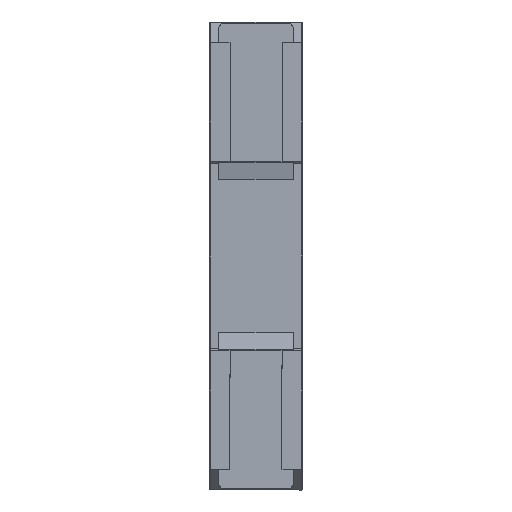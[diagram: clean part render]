
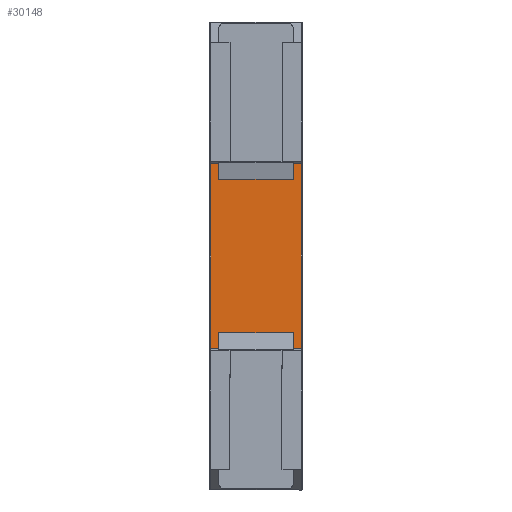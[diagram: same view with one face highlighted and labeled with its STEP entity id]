
A CAD part, left-side view. The second image highlights one B-rep face of the part: STEP entity #30148.
In plain terms, the highlighted planar face has unit normal (-1, 0, 0).
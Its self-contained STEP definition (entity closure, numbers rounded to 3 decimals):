
#134 = VERTEX_POINT ( 'NONE', #2056 ) ;
#229 = CARTESIAN_POINT ( 'NONE',  ( 4., 0., 58.75 ) ) ;
#536 = EDGE_LOOP ( 'NONE', ( #34832, #24188, #33313, #42470, #9837, #13044, #20094, #19908, #35086, #44092, #45949, #38702 ) ) ;
#1455 = CARTESIAN_POINT ( 'NONE',  ( 4., 17.6, 58.75 ) ) ;
#1949 = CARTESIAN_POINT ( 'NONE',  ( 4., 15.85, 85.75 ) ) ;
#2056 = CARTESIAN_POINT ( 'NONE',  ( 4., 17.4, 23.25 ) ) ;
#2445 = DIRECTION ( 'NONE',  ( 0., 0., -1. ) ) ;
#3113 = CARTESIAN_POINT ( 'NONE',  ( 4., 17.4, 41. ) ) ;
#3492 = VERTEX_POINT ( 'NONE', #229 ) ;
#3727 = VERTEX_POINT ( 'NONE', #19730 ) ;
#3997 = EDGE_CURVE ( 'NONE', #3492, #33492, #15199, .T. ) ;
#4330 = LINE ( 'NONE', #36053, #16163 ) ;
#4342 = EDGE_CURVE ( 'NONE', #8724, #29728, #44262, .T. ) ;
#5014 = LINE ( 'NONE', #44492, #41630 ) ;
#6082 = EDGE_CURVE ( 'NONE', #13612, #33492, #18852, .T. ) ;
#6759 = LINE ( 'NONE', #34992, #7663 ) ;
#6876 = VECTOR ( 'NONE', #46277, 1000. ) ;
#7169 = CARTESIAN_POINT ( 'NONE',  ( 4., 1.55, 23.25 ) ) ;
#7663 = VECTOR ( 'NONE', #10762, 1000. ) ;
#8637 = PLANE ( 'NONE',  #32968 ) ;
#8724 = VERTEX_POINT ( 'NONE', #10588 ) ;
#8797 = DIRECTION ( 'NONE',  ( 0., 0., -1. ) ) ;
#9439 = VECTOR ( 'NONE', #21652, 1000. ) ;
#9495 = VECTOR ( 'NONE', #33426, 1000. ) ;
#9837 = ORIENTED_EDGE ( 'NONE', *, *, #18395, .T. ) ;
#10588 = CARTESIAN_POINT ( 'NONE',  ( 4., 17.4, 58.75 ) ) ;
#10762 = DIRECTION ( 'NONE',  ( 0., -1., 0. ) ) ;
#11690 = DIRECTION ( 'NONE',  ( 0., 0., -1. ) ) ;
#12712 = CARTESIAN_POINT ( 'NONE',  ( 4., 15.85, 58.75 ) ) ;
#13025 = LINE ( 'NONE', #44349, #18510 ) ;
#13044 = ORIENTED_EDGE ( 'NONE', *, *, #39787, .F. ) ;
#13612 = VERTEX_POINT ( 'NONE', #7169 ) ;
#14273 = LINE ( 'NONE', #20644, #6876 ) ;
#14761 = EDGE_CURVE ( 'NONE', #29728, #20878, #44495, .T. ) ;
#15199 = LINE ( 'NONE', #43897, #26443 ) ;
#15779 = CARTESIAN_POINT ( 'NONE',  ( 4., 1.55, 23.25 ) ) ;
#16163 = VECTOR ( 'NONE', #28991, 1000. ) ;
#17071 = DIRECTION ( 'NONE',  ( 1., 0., 0. ) ) ;
#18384 = LINE ( 'NONE', #39541, #9439 ) ;
#18395 = EDGE_CURVE ( 'NONE', #3727, #43370, #37951, .T. ) ;
#18510 = VECTOR ( 'NONE', #34884, 1000. ) ;
#18852 = LINE ( 'NONE', #15779, #26276 ) ;
#19730 = CARTESIAN_POINT ( 'NONE',  ( 4., 1.55, 58.75 ) ) ;
#19836 = EDGE_CURVE ( 'NONE', #20832, #30046, #14273, .T. ) ;
#19908 = ORIENTED_EDGE ( 'NONE', *, *, #4342, .F. ) ;
#20094 = ORIENTED_EDGE ( 'NONE', *, *, #14761, .F. ) ;
#20644 = CARTESIAN_POINT ( 'NONE',  ( 4., 17.6, 23.5 ) ) ;
#20832 = VERTEX_POINT ( 'NONE', #35948 ) ;
#20878 = VERTEX_POINT ( 'NONE', #32650 ) ;
#21257 = CARTESIAN_POINT ( 'NONE',  ( 4., 17.6, 23.25 ) ) ;
#21652 = DIRECTION ( 'NONE',  ( 0., 0., -1. ) ) ;
#23997 = EDGE_CURVE ( 'NONE', #30046, #40800, #18384, .T. ) ;
#24188 = ORIENTED_EDGE ( 'NONE', *, *, #6082, .T. ) ;
#24767 = CARTESIAN_POINT ( 'NONE',  ( 4., 0., 23.25 ) ) ;
#24852 = EDGE_CURVE ( 'NONE', #3492, #3727, #13025, .T. ) ;
#26276 = VECTOR ( 'NONE', #33405, 1000. ) ;
#26443 = VECTOR ( 'NONE', #11690, 1000. ) ;
#26875 = CARTESIAN_POINT ( 'NONE',  ( 4., 1.55, 85.75 ) ) ;
#28988 = CARTESIAN_POINT ( 'NONE',  ( 4., 1.55, 58.5 ) ) ;
#28991 = DIRECTION ( 'NONE',  ( 0., -1., 0. ) ) ;
#29728 = VERTEX_POINT ( 'NONE', #12712 ) ;
#30046 = VERTEX_POINT ( 'NONE', #34232 ) ;
#30148 = ADVANCED_FACE ( 'NONE', ( #45506 ), #8637, .F. ) ;
#30274 = VECTOR ( 'NONE', #43054, 1000. ) ;
#32650 = CARTESIAN_POINT ( 'NONE',  ( 4., 15.85, 58.5 ) ) ;
#32968 = AXIS2_PLACEMENT_3D ( 'NONE', #21257, #17071, #39130 ) ;
#33313 = ORIENTED_EDGE ( 'NONE', *, *, #3997, .F. ) ;
#33405 = DIRECTION ( 'NONE',  ( 0., -1., 0. ) ) ;
#33426 = DIRECTION ( 'NONE',  ( 0., -1., 0. ) ) ;
#33492 = VERTEX_POINT ( 'NONE', #24767 ) ;
#33749 = CARTESIAN_POINT ( 'NONE',  ( 4., 15.85, 23.25 ) ) ;
#33886 = EDGE_CURVE ( 'NONE', #134, #8724, #38829, .T. ) ;
#34232 = CARTESIAN_POINT ( 'NONE',  ( 4., 15.85, 23.5 ) ) ;
#34388 = DIRECTION ( 'NONE',  ( 0., 0., -1. ) ) ;
#34832 = ORIENTED_EDGE ( 'NONE', *, *, #45627, .T. ) ;
#34884 = DIRECTION ( 'NONE',  ( 0., 1., 0. ) ) ;
#34992 = CARTESIAN_POINT ( 'NONE',  ( 4., 1.55, 23.25 ) ) ;
#35086 = ORIENTED_EDGE ( 'NONE', *, *, #33886, .F. ) ;
#35948 = CARTESIAN_POINT ( 'NONE',  ( 4., 1.55, 23.5 ) ) ;
#36053 = CARTESIAN_POINT ( 'NONE',  ( 4., 17.6, 58.5 ) ) ;
#37543 = EDGE_CURVE ( 'NONE', #134, #40800, #6759, .T. ) ;
#37951 = LINE ( 'NONE', #26875, #43515 ) ;
#38702 = ORIENTED_EDGE ( 'NONE', *, *, #19836, .F. ) ;
#38829 = LINE ( 'NONE', #3113, #30274 ) ;
#39130 = DIRECTION ( 'NONE',  ( 0., -1., 0. ) ) ;
#39541 = CARTESIAN_POINT ( 'NONE',  ( 4., 15.85, 23.25 ) ) ;
#39787 = EDGE_CURVE ( 'NONE', #20878, #43370, #4330, .T. ) ;
#40800 = VERTEX_POINT ( 'NONE', #33749 ) ;
#40996 = VECTOR ( 'NONE', #8797, 1000. ) ;
#41630 = VECTOR ( 'NONE', #34388, 1000. ) ;
#42470 = ORIENTED_EDGE ( 'NONE', *, *, #24852, .T. ) ;
#43054 = DIRECTION ( 'NONE',  ( 0., 0., 1. ) ) ;
#43370 = VERTEX_POINT ( 'NONE', #28988 ) ;
#43515 = VECTOR ( 'NONE', #2445, 1000. ) ;
#43897 = CARTESIAN_POINT ( 'NONE',  ( 4., 0., 23.25 ) ) ;
#44092 = ORIENTED_EDGE ( 'NONE', *, *, #37543, .T. ) ;
#44262 = LINE ( 'NONE', #1455, #9495 ) ;
#44349 = CARTESIAN_POINT ( 'NONE',  ( 4., 17.6, 58.75 ) ) ;
#44492 = CARTESIAN_POINT ( 'NONE',  ( 4., 1.55, -3.75 ) ) ;
#44495 = LINE ( 'NONE', #1949, #40996 ) ;
#45506 = FACE_OUTER_BOUND ( 'NONE', #536, .T. ) ;
#45627 = EDGE_CURVE ( 'NONE', #20832, #13612, #5014, .T. ) ;
#45949 = ORIENTED_EDGE ( 'NONE', *, *, #23997, .F. ) ;
#46277 = DIRECTION ( 'NONE',  ( 0., 1., 0. ) ) ;
